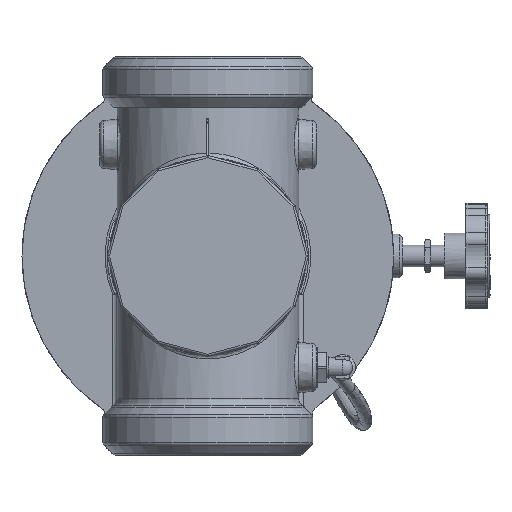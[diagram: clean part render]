
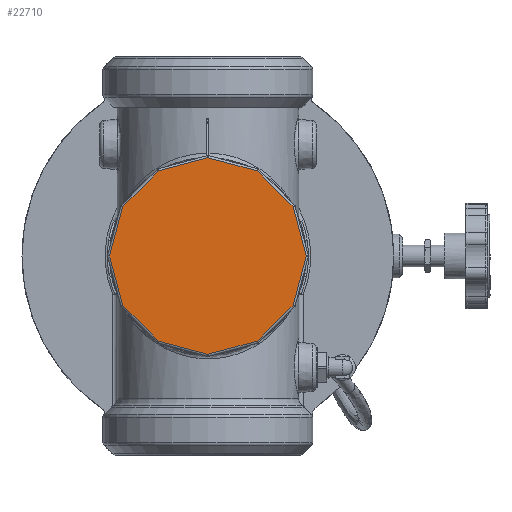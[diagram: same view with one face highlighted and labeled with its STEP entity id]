
A CAD part, front view. The second image highlights one B-rep face of the part: STEP entity #22710.
In plain terms, the highlighted planar face has unit normal (0, -1, 0).
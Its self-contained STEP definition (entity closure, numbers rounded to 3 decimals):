
#934=PLANE('',#24474);
#2316=FACE_OUTER_BOUND('',#3760,.T.);
#3760=EDGE_LOOP('',(#16301,#16302,#16303,#16304,#16305,#16306,#16307,#16308,
#16309,#16310,#16311,#16312));
#6504=LINE('',#33906,#7794);
#6507=LINE('',#33919,#7797);
#6726=LINE('',#45897,#8016);
#6730=LINE('',#45906,#8020);
#6732=LINE('',#45909,#8022);
#6736=LINE('',#45918,#8026);
#6740=LINE('',#45927,#8030);
#6744=LINE('',#45936,#8034);
#6748=LINE('',#45945,#8038);
#6752=LINE('',#45954,#8042);
#6758=LINE('',#45969,#8048);
#6764=LINE('',#45984,#8054);
#7794=VECTOR('',#26827,23.275);
#7797=VECTOR('',#26840,23.275);
#8016=VECTOR('',#28059,23.275);
#8020=VECTOR('',#28069,23.275);
#8022=VECTOR('',#28073,23.275);
#8026=VECTOR('',#28083,23.275);
#8030=VECTOR('',#28093,23.275);
#8034=VECTOR('',#28103,23.275);
#8038=VECTOR('',#28113,23.275);
#8042=VECTOR('',#28123,23.275);
#8048=VECTOR('',#28139,23.275);
#8054=VECTOR('',#28155,23.275);
#9167=VERTEX_POINT('',#33902);
#9169=VERTEX_POINT('',#33905);
#9174=VERTEX_POINT('',#33917);
#9553=VERTEX_POINT('',#45831);
#9557=VERTEX_POINT('',#45842);
#9561=VERTEX_POINT('',#45851);
#9563=VERTEX_POINT('',#45856);
#9567=VERTEX_POINT('',#45865);
#9569=VERTEX_POINT('',#45870);
#9573=VERTEX_POINT('',#45879);
#9575=VERTEX_POINT('',#45884);
#9579=VERTEX_POINT('',#45893);
#11382=EDGE_CURVE('',#9167,#9169,#6504,.T.);
#11389=EDGE_CURVE('',#9174,#9167,#6507,.T.);
#12043=EDGE_CURVE('',#9575,#9579,#6726,.T.);
#12048=EDGE_CURVE('',#9579,#9573,#6730,.T.);
#12050=EDGE_CURVE('',#9569,#9575,#6732,.T.);
#12055=EDGE_CURVE('',#9573,#9567,#6736,.T.);
#12060=EDGE_CURVE('',#9563,#9569,#6740,.T.);
#12065=EDGE_CURVE('',#9567,#9561,#6744,.T.);
#12070=EDGE_CURVE('',#9557,#9563,#6748,.T.);
#12075=EDGE_CURVE('',#9561,#9174,#6752,.T.);
#12083=EDGE_CURVE('',#9553,#9557,#6758,.T.);
#12091=EDGE_CURVE('',#9169,#9553,#6764,.T.);
#16301=ORIENTED_EDGE('',*,*,#12043,.F.);
#16302=ORIENTED_EDGE('',*,*,#12050,.F.);
#16303=ORIENTED_EDGE('',*,*,#12060,.F.);
#16304=ORIENTED_EDGE('',*,*,#12070,.F.);
#16305=ORIENTED_EDGE('',*,*,#12083,.F.);
#16306=ORIENTED_EDGE('',*,*,#12091,.F.);
#16307=ORIENTED_EDGE('',*,*,#11382,.F.);
#16308=ORIENTED_EDGE('',*,*,#11389,.F.);
#16309=ORIENTED_EDGE('',*,*,#12075,.F.);
#16310=ORIENTED_EDGE('',*,*,#12065,.F.);
#16311=ORIENTED_EDGE('',*,*,#12055,.F.);
#16312=ORIENTED_EDGE('',*,*,#12048,.F.);
#22710=ADVANCED_FACE('',(#2316),#934,.F.);
#24474=AXIS2_PLACEMENT_3D('',#46019,#28197,#28198);
#26827=DIRECTION('',(0.259,0.,0.966));
#26840=DIRECTION('',(-0.259,0.,0.966));
#28059=DIRECTION('',(-0.259,0.,-0.966));
#28069=DIRECTION('',(-0.707,0.,-0.707));
#28073=DIRECTION('',(0.259,0.,-0.966));
#28083=DIRECTION('',(-0.966,0.,-0.259));
#28093=DIRECTION('',(0.707,0.,-0.707));
#28103=DIRECTION('',(-0.966,0.,0.259));
#28113=DIRECTION('',(0.966,0.,-0.259));
#28123=DIRECTION('',(-0.707,0.,0.707));
#28139=DIRECTION('',(0.966,0.,0.259));
#28155=DIRECTION('',(0.707,0.,0.707));
#28197=DIRECTION('center_axis',(0.,1.,0.));
#28198=DIRECTION('ref_axis',(0.,0.,1.));
#33902=CARTESIAN_POINT('',(-44.965,-75.,-68.));
#33905=CARTESIAN_POINT('',(-38.941,-75.,-45.518));
#33906=CARTESIAN_POINT('',(-44.965,-75.,-68.));
#33917=CARTESIAN_POINT('',(-38.941,-75.,-90.482));
#33919=CARTESIAN_POINT('',(-38.941,-75.,-90.482));
#45831=CARTESIAN_POINT('',(-22.482,-75.,-29.059));
#45842=CARTESIAN_POINT('',(0.,-75.,-23.035));
#45851=CARTESIAN_POINT('',(-22.482,-75.,-106.941));
#45856=CARTESIAN_POINT('',(22.482,-75.,-29.059));
#45865=CARTESIAN_POINT('',(0.,-75.,-112.965));
#45870=CARTESIAN_POINT('',(38.941,-75.,-45.518));
#45879=CARTESIAN_POINT('',(22.482,-75.,-106.941));
#45884=CARTESIAN_POINT('',(44.965,-75.,-68.));
#45893=CARTESIAN_POINT('',(38.941,-75.,-90.482));
#45897=CARTESIAN_POINT('',(44.965,-75.,-68.));
#45906=CARTESIAN_POINT('',(38.941,-75.,-90.482));
#45909=CARTESIAN_POINT('',(38.941,-75.,-45.518));
#45918=CARTESIAN_POINT('',(22.482,-75.,-106.941));
#45927=CARTESIAN_POINT('',(22.482,-75.,-29.059));
#45936=CARTESIAN_POINT('',(0.,-75.,-112.965));
#45945=CARTESIAN_POINT('',(0.,-75.,-23.035));
#45954=CARTESIAN_POINT('',(-22.482,-75.,-106.941));
#45969=CARTESIAN_POINT('',(-22.482,-75.,-29.059));
#45984=CARTESIAN_POINT('',(-38.941,-75.,-45.518));
#46019=CARTESIAN_POINT('Origin',(0.,-75.,-68.));
